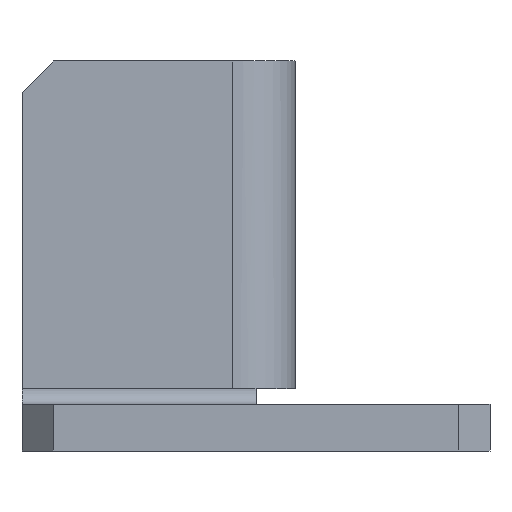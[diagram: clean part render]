
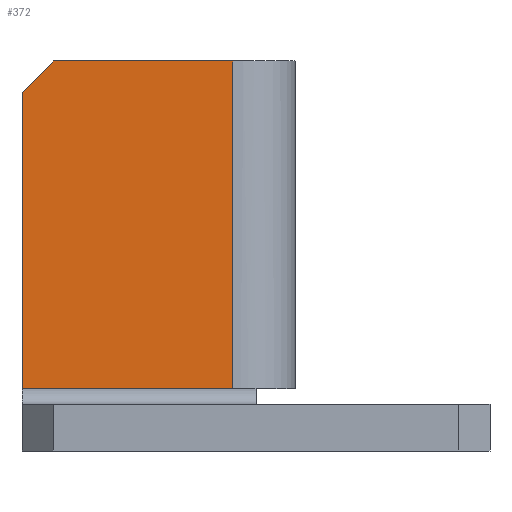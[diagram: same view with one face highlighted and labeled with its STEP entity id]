
A CAD part, left-side view. The second image highlights one B-rep face of the part: STEP entity #372.
In plain terms, the highlighted planar face has unit normal (-1, 0, 0).
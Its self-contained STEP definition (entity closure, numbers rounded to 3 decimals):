
#18 = EDGE_LOOP ( 'NONE', ( #640, #446, #1184, #563, #1180 ) ) ;
#44 = VERTEX_POINT ( 'NONE', #1026 ) ;
#51 = CARTESIAN_POINT ( 'NONE',  ( 11., 1.5, 22. ) ) ;
#78 = CARTESIAN_POINT ( 'NONE',  ( 11., 1.5, 1. ) ) ;
#83 = CARTESIAN_POINT ( 'NONE',  ( 11., 0., 0. ) ) ;
#85 = VECTOR ( 'NONE', #175, 1000. ) ;
#153 = PLANE ( 'NONE',  #846 ) ;
#175 = DIRECTION ( 'NONE',  ( 0., 0., -1. ) ) ;
#185 = LINE ( 'NONE', #78, #432 ) ;
#206 = LINE ( 'NONE', #693, #859 ) ;
#207 = VERTEX_POINT ( 'NONE', #51 ) ;
#224 = EDGE_CURVE ( 'NONE', #1097, #44, #1292, .T. ) ;
#265 = VERTEX_POINT ( 'NONE', #1022 ) ;
#279 = EDGE_CURVE ( 'NONE', #207, #568, #513, .T. ) ;
#372 = ADVANCED_FACE ( 'NONE', ( #559 ), #153, .F. ) ;
#432 = VECTOR ( 'NONE', #644, 1000. ) ;
#446 = ORIENTED_EDGE ( 'NONE', *, *, #534, .T. ) ;
#465 = DIRECTION ( 'NONE',  ( 0., 1., 0. ) ) ;
#484 = DIRECTION ( 'NONE',  ( 0., 1., 0. ) ) ;
#513 = LINE ( 'NONE', #627, #1108 ) ;
#534 = EDGE_CURVE ( 'NONE', #568, #265, #206, .T. ) ;
#559 = FACE_OUTER_BOUND ( 'NONE', #18, .T. ) ;
#563 = ORIENTED_EDGE ( 'NONE', *, *, #224, .F. ) ;
#568 = VERTEX_POINT ( 'NONE', #889 ) ;
#627 = CARTESIAN_POINT ( 'NONE',  ( 11., 0., 22. ) ) ;
#640 = ORIENTED_EDGE ( 'NONE', *, *, #279, .T. ) ;
#644 = DIRECTION ( 'NONE',  ( 0., 0., 1. ) ) ;
#653 = DIRECTION ( 'NONE',  ( 0., 0., -1. ) ) ;
#693 = CARTESIAN_POINT ( 'NONE',  ( 11., 13., 22. ) ) ;
#719 = CARTESIAN_POINT ( 'NONE',  ( 11., 15., 0. ) ) ;
#831 = EDGE_CURVE ( 'NONE', #265, #44, #999, .T. ) ;
#833 = EDGE_CURVE ( 'NONE', #1097, #207, #185, .T. ) ;
#846 = AXIS2_PLACEMENT_3D ( 'NONE', #83, #1048, #653 ) ;
#850 = CARTESIAN_POINT ( 'NONE',  ( 11., 1.5, 1. ) ) ;
#859 = VECTOR ( 'NONE', #1058, 1000. ) ;
#889 = CARTESIAN_POINT ( 'NONE',  ( 11., 13., 22. ) ) ;
#999 = LINE ( 'NONE', #719, #85 ) ;
#1018 = VECTOR ( 'NONE', #465, 1000. ) ;
#1022 = CARTESIAN_POINT ( 'NONE',  ( 11., 15., 20. ) ) ;
#1026 = CARTESIAN_POINT ( 'NONE',  ( 11., 15., 1. ) ) ;
#1048 = DIRECTION ( 'NONE',  ( 1., 0., 0. ) ) ;
#1058 = DIRECTION ( 'NONE',  ( 0., 0.707, -0.707 ) ) ;
#1097 = VERTEX_POINT ( 'NONE', #850 ) ;
#1108 = VECTOR ( 'NONE', #484, 1000. ) ;
#1180 = ORIENTED_EDGE ( 'NONE', *, *, #833, .T. ) ;
#1184 = ORIENTED_EDGE ( 'NONE', *, *, #831, .T. ) ;
#1277 = CARTESIAN_POINT ( 'NONE',  ( 11., 15., 1. ) ) ;
#1292 = LINE ( 'NONE', #1277, #1018 ) ;
